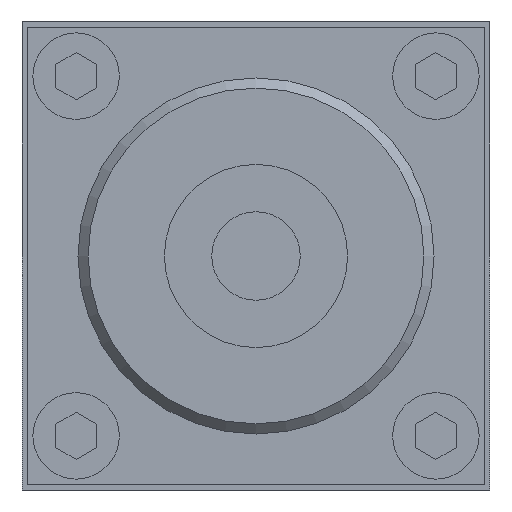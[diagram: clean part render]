
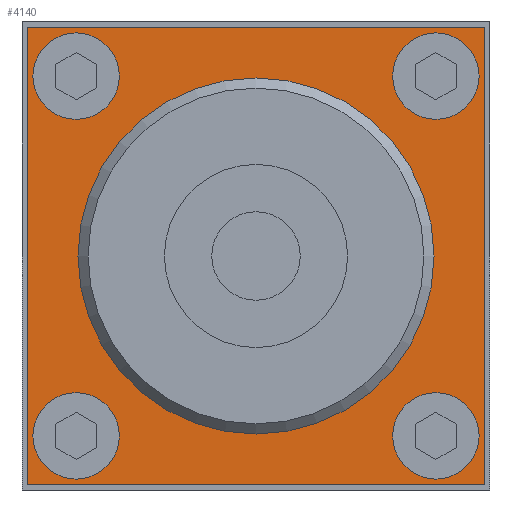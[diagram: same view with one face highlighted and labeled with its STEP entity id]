
A CAD part, left-side view. The second image highlights one B-rep face of the part: STEP entity #4140.
In plain terms, the highlighted planar face has unit normal (-1, 0, 0).
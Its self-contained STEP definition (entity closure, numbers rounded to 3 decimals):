
#4140=ADVANCED_FACE('', (#4150,#4160,#4170,#4180,#4190,#4200), #4210, 
.T.);
#13700=AXIS2_PLACEMENT_3D('Ax2Pl3d', #13710, #13720, #13730);
#13740=AXIS2_PLACEMENT_3D('Ax2Pl3d', #13750, #13760, #13770);
#13780=AXIS2_PLACEMENT_3D('Ax2Pl3d', #13790, #13800, #13810);
#13820=AXIS2_PLACEMENT_3D('Ax2Pl3d', #13830, #13840, #13850);
#13860=AXIS2_PLACEMENT_3D('Ax2Pl3d', #13870, #13880, #13890);
#13900=AXIS2_PLACEMENT_3D('Ax2Pl3d', #13910, #13920, #13930);
#13710=CARTESIAN_POINT('HicPkt', (-14.5,45.5,0.5));
#22340=CARTESIAN_POINT('', (-14.5,0.5,0.5));
#22350=CARTESIAN_POINT('', (-14.5,45.5,0.5));
#22360=CARTESIAN_POINT('', (-14.5,0.5,0.5));
#22370=CARTESIAN_POINT('', (-14.5,0.5,45.5));
#22380=CARTESIAN_POINT('', (-14.5,0.5,45.5));
#22390=CARTESIAN_POINT('', (-14.5,45.5,45.5));
#22400=CARTESIAN_POINT('', (-14.5,45.5,45.5));
#22410=CARTESIAN_POINT('', (-14.5,45.5,0.5));
#13750=CARTESIAN_POINT('HicPkt', (-14.5,40.68,5.32));
#22420=CARTESIAN_POINT('', (-14.5,43.43,5.32));
#13790=CARTESIAN_POINT('HicPkt', (-14.5,5.32,40.68));
#22430=CARTESIAN_POINT('', (-14.5,8.07,40.68));
#13830=CARTESIAN_POINT('HicPkt', (-14.5,40.68,40.68));
#22440=CARTESIAN_POINT('', (-14.5,43.43,40.68));
#13870=CARTESIAN_POINT('HicPkt', (-14.5,5.32,5.32));
#22450=CARTESIAN_POINT('', (-14.5,8.07,5.32));
#13910=CARTESIAN_POINT('HicPkt', (-14.5,23.,23.));
#22460=CARTESIAN_POINT('', (-14.5,40.5,23.));
#24600=CIRCLE('Circle', #13740, 2.75);
#24610=CIRCLE('Circle', #13780, 2.75);
#24620=CIRCLE('Circle', #13820, 2.75);
#24630=CIRCLE('Circle', #13860, 2.75);
#24640=CIRCLE('Circle', #13900, 17.5);
#13720=DIRECTION('Axis', (-1.,0.,
0.));
#13730=DIRECTION('RefDirection', (0.,
0.,-1.));
#36360=DIRECTION('', (0.,-1.,0.));
#36370=DIRECTION('', (0.,0.,1.));
#36380=DIRECTION('', (0.,1.,0.));
#36390=DIRECTION('', (0.,0.,-1.));
#13760=DIRECTION('Axis', (-1.,0.,0.)
);
#13770=DIRECTION('RefDirection', (0.,
0.,-1.));
#13800=DIRECTION('Axis', (-1.,0.,0.)
);
#13810=DIRECTION('RefDirection', (0.,
0.,-1.));
#13840=DIRECTION('Axis', (-1.,0.,0.)
);
#13850=DIRECTION('RefDirection', (0.,
0.,-1.));
#13880=DIRECTION('Axis', (-1.,0.,0.)
);
#13890=DIRECTION('RefDirection', (0.,
0.,-1.));
#13920=DIRECTION('Axis', (-1.,0.,0.)
);
#13930=DIRECTION('RefDirection', (0.,
0.,-1.));
#41200=EDGE_CURVE('', #41210, #41220, #41230, .T.);
#41240=EDGE_CURVE('', #41220, #41250, #41260, .T.);
#41270=EDGE_CURVE('', #41250, #41280, #41290, .T.);
#41300=EDGE_CURVE('', #41280, #41210, #41310, .T.);
#41320=EDGE_CURVE('', #41330, #41330, #24600, .T.);
#41340=EDGE_CURVE('', #41350, #41350, #24610, .T.);
#41360=EDGE_CURVE('', #41370, #41370, #24620, .T.);
#41380=EDGE_CURVE('', #41390, #41390, #24630, .T.);
#41400=EDGE_CURVE('', #41410, #41410, #24640, .T.);
#48940=EDGE_LOOP('Edge_loop', (#48950,#48960,#48970,#48980));
#48990=EDGE_LOOP('Edge_loop', (#49000));
#49010=EDGE_LOOP('Edge_loop', (#49020));
#49030=EDGE_LOOP('Edge_loop', (#49040));
#49050=EDGE_LOOP('Edge_loop', (#49060));
#49070=EDGE_LOOP('Edge_loop', (#49080));
#4160=FACE_BOUND('', #48990, .T.);
#4170=FACE_BOUND('', #49010, .T.);
#4180=FACE_BOUND('', #49030, .T.);
#4190=FACE_BOUND('', #49050, .T.);
#4200=FACE_BOUND('', #49070, .T.);
#4150=FACE_OUTER_BOUND('Face_outer_bound', #48940, .T.);
#41230=LINE('Line', #22340, #57340);
#41260=LINE('Line', #22370, #57350);
#41290=LINE('Line', #22390, #57360);
#41310=LINE('Line', #22410, #57370);
#48950=ORIENTED_EDGE('', *, *, #41200, .T.);
#48960=ORIENTED_EDGE('', *, *, #41240, .T.);
#48970=ORIENTED_EDGE('', *, *, #41270, .T.);
#48980=ORIENTED_EDGE('', *, *, #41300, .T.);
#49000=ORIENTED_EDGE('', *, *, #41320, .F.);
#49020=ORIENTED_EDGE('', *, *, #41340, .F.);
#49040=ORIENTED_EDGE('', *, *, #41360, .F.);
#49060=ORIENTED_EDGE('', *, *, #41380, .F.);
#49080=ORIENTED_EDGE('', *, *, #41400, .F.);
#4210=PLANE('Plane', #13700);
#57340=VECTOR('', #36360, 45.);
#57350=VECTOR('', #36370, 45.);
#57360=VECTOR('', #36380, 45.);
#57370=VECTOR('', #36390, 45.);
#41210=VERTEX_POINT('', #22350);
#41220=VERTEX_POINT('', #22360);
#41250=VERTEX_POINT('', #22380);
#41280=VERTEX_POINT('', #22400);
#41330=VERTEX_POINT('', #22420);
#41350=VERTEX_POINT('', #22430);
#41370=VERTEX_POINT('', #22440);
#41390=VERTEX_POINT('', #22450);
#41410=VERTEX_POINT('', #22460);
